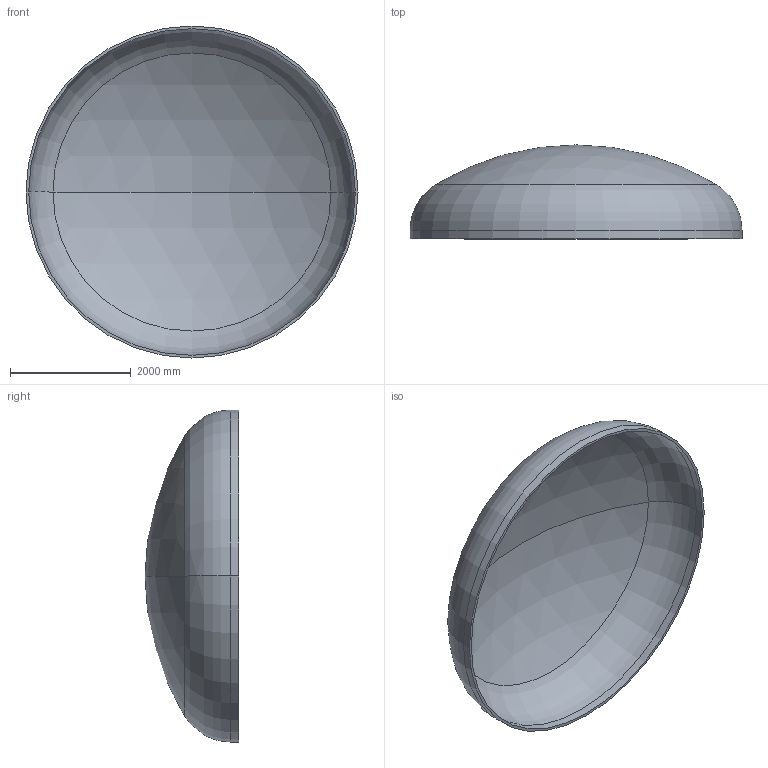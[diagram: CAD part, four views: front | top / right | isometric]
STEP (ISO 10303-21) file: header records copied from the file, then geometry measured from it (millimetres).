
FILE_DESCRIPTION (( 'STEP AP203' ), '1' );
FILE_NAME ('DIN 28013 Korbbogenform_-_Boden DIN 28013 - 5500 x 140 - I - s=44.step', '2016-07-04T10:34:14', ( '' ), ( '' ), 'SwSTEP 2.0', 'SolidWorks 2013', '' );
FILE_SCHEMA (( 'CONFIG_CONTROL_DESIGN' ));
Length unit declared in the file: millimetre
Products named in the file (1): DIN 28013 Korbbogenform_-_Boden DIN 28013 - 5500 x 140 - I - s=44
Bounding box: 5500 x 1555.02 x 5500 mm (x, y, z)
Volume: 1537512884.5 mm3; surface area: 70645160.9 mm2
Topology: 1 solids, 1 shells, 13 faces, 24 edges, 14 vertices
Faces by surface type: torus 4, cylinder 4, sphere 4, plane 1
Entity records: 407 total; most frequent: DIRECTION 72, CARTESIAN_POINT 52, ORIENTED_EDGE 48, AXIS2_PLACEMENT_3D 34, EDGE_CURVE 24, CIRCLE 20, VERTEX_POINT 14, EDGE_LOOP 14
